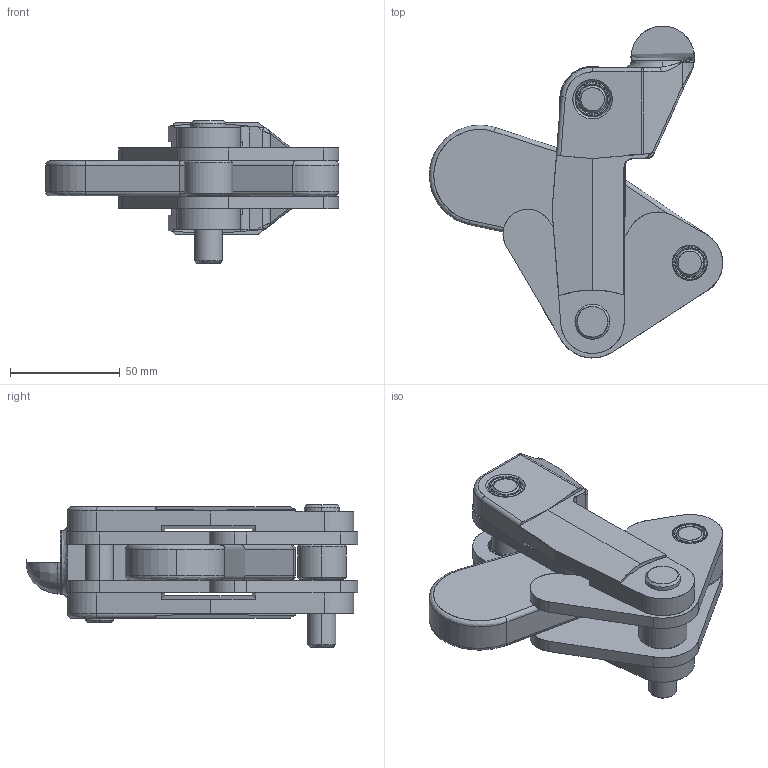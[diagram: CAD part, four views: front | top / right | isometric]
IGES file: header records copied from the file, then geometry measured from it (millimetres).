
Start section: SolidWorks IGES file using analytic representation for surfaces
Global section: file name: D:\GH Files\GH-SW-FILES\GH7\70605,70610,70615\70605.IGS; native system: SolidWorks 2006 by SolidWorks Corporation; preprocessor: SolidWorks 2006 by SolidWorks Corporation; author: Administrator; date: 060705.123709; units: millimetre
Bounding box: 133.9 x 151.58 x 65 mm (x, y, z)
Surface area: 88258.7 mm2 (no closed solid volume)
Topology: 0 solids, 0 shells, 1302 faces, 8895 edges, 8892 vertices
Faces by surface type: bspline 870, revolution 432
